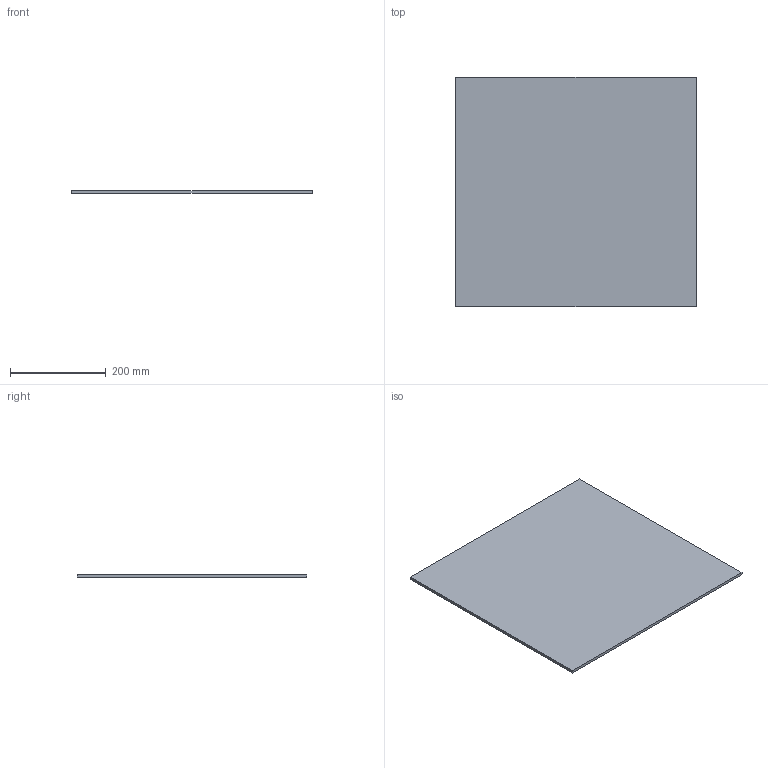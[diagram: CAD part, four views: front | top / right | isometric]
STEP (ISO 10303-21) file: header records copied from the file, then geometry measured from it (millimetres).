
FILE_DESCRIPTION (( 'STEP AP214' ), '1' );
FILE_NAME ('Lochblech_NL500_KAB600_19.step', '2010-10-11T13:38:36', ( 'grass' ), ( '' ), 'SwSTEP 2.0', 'SolidWorks 2010', '' );
FILE_SCHEMA (( 'AUTOMOTIVE_DESIGN' ));
Length unit declared in the file: millimetre
Products named in the file (1): Lochblech_NL500_KAB600_19
Bounding box: 502 x 479 x 6 mm (x, y, z)
Volume: 1442748 mm3; surface area: 492688 mm2
Topology: 1 solids, 1 shells, 6 faces, 12 edges, 8 vertices
Faces by surface type: plane 6
Entity records: 190 total; most frequent: CARTESIAN_POINT 27, DIRECTION 26, ORIENTED_EDGE 24, EDGE_CURVE 12, LINE 12, VECTOR 12, VERTEX_POINT 8, AXIS2_PLACEMENT_3D 7
